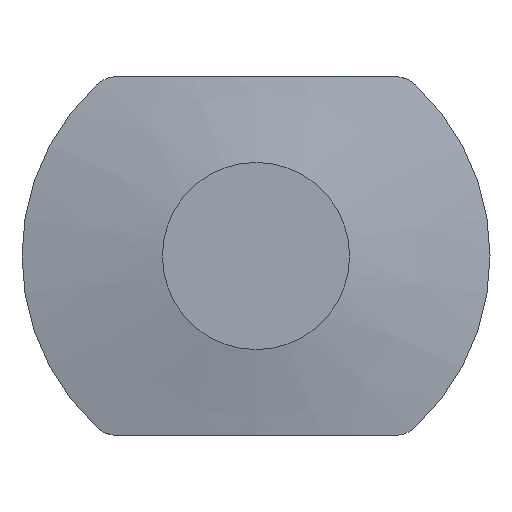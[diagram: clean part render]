
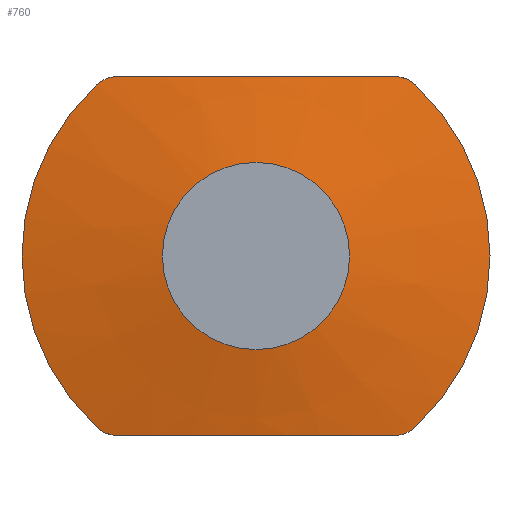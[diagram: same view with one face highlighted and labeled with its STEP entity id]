
A CAD part, left-side view. The second image highlights one B-rep face of the part: STEP entity #760.
In plain terms, the highlighted conical face has half-angle 78.891 degrees and reference radius 19.25 mm.
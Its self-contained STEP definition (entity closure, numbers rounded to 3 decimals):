
#38=CONICAL_SURFACE('',#851,19.25,1.377);
#62=B_SPLINE_CURVE_WITH_KNOTS('',3,(#1359,#1360,#1361,#1362,#1363),
 .UNSPECIFIED.,.F.,.F.,(4,1,4),(0.018,0.027,0.036),
 .UNSPECIFIED.);
#63=B_SPLINE_CURVE_WITH_KNOTS('',3,(#1367,#1368,#1369,#1370),
 .UNSPECIFIED.,.F.,.F.,(4,4),(0.,0.001),
 .UNSPECIFIED.);
#64=B_SPLINE_CURVE_WITH_KNOTS('',3,(#1378,#1379,#1380,#1381),
 .UNSPECIFIED.,.F.,.F.,(4,4),(0.,0.001),
 .UNSPECIFIED.);
#65=B_SPLINE_CURVE_WITH_KNOTS('',3,(#1385,#1386,#1387,#1388,#1389),
 .UNSPECIFIED.,.F.,.F.,(4,1,4),(0.018,0.027,0.036),
 .UNSPECIFIED.);
#66=B_SPLINE_CURVE_WITH_KNOTS('',3,(#1393,#1394,#1395,#1396),
 .UNSPECIFIED.,.F.,.F.,(4,4),(0.,0.001),
 .UNSPECIFIED.);
#67=B_SPLINE_CURVE_WITH_KNOTS('',3,(#1404,#1405,#1406,#1407),
 .UNSPECIFIED.,.F.,.F.,(4,4),(0.,0.001),
 .UNSPECIFIED.);
#227=ORIENTED_EDGE('',*,*,#400,.T.);
#228=ORIENTED_EDGE('',*,*,#385,.T.);
#229=ORIENTED_EDGE('',*,*,#399,.T.);
#230=ORIENTED_EDGE('',*,*,#398,.T.);
#231=ORIENTED_EDGE('',*,*,#395,.T.);
#232=ORIENTED_EDGE('',*,*,#393,.T.);
#233=ORIENTED_EDGE('',*,*,#391,.T.);
#234=ORIENTED_EDGE('',*,*,#389,.T.);
#235=ORIENTED_EDGE('',*,*,#387,.T.);
#385=EDGE_CURVE('',#473,#472,#62,.T.);
#387=EDGE_CURVE('',#474,#473,#63,.T.);
#389=EDGE_CURVE('',#475,#474,#527,.F.);
#391=EDGE_CURVE('',#476,#475,#64,.T.);
#393=EDGE_CURVE('',#477,#476,#65,.T.);
#395=EDGE_CURVE('',#478,#477,#66,.T.);
#398=EDGE_CURVE('',#479,#478,#528,.F.);
#399=EDGE_CURVE('',#472,#479,#67,.T.);
#400=EDGE_CURVE('',#480,#480,#529,.T.);
#472=VERTEX_POINT('',#1358);
#473=VERTEX_POINT('',#1364);
#474=VERTEX_POINT('',#1371);
#475=VERTEX_POINT('',#1375);
#476=VERTEX_POINT('',#1382);
#477=VERTEX_POINT('',#1390);
#478=VERTEX_POINT('',#1397);
#479=VERTEX_POINT('',#1401);
#480=VERTEX_POINT('',#1410);
#527=CIRCLE('',#844,15.);
#528=CIRCLE('',#849,15.);
#529=CIRCLE('',#852,6.);
#576=EDGE_LOOP('',(#227));
#577=EDGE_LOOP('',(#228,#229,#230,#231,#232,#233,#234,#235));
#659=FACE_BOUND('',#576,.T.);
#660=FACE_BOUND('',#577,.T.);
#760=ADVANCED_FACE('',(#659,#660),#38,.T.);
#844=AXIS2_PLACEMENT_3D('',#1374,#1000,#1001);
#849=AXIS2_PLACEMENT_3D('',#1402,#1015,#1016);
#851=AXIS2_PLACEMENT_3D('',#1408,#1019,#1020);
#852=AXIS2_PLACEMENT_3D('',#1409,#1021,#1022);
#1000=DIRECTION('',(1.,0.,0.));
#1001=DIRECTION('',(0.,0.,-1.));
#1015=DIRECTION('',(1.,0.,0.));
#1016=DIRECTION('',(0.,0.,-1.));
#1019=DIRECTION('',(1.,0.,0.));
#1020=DIRECTION('',(0.,0.,-1.));
#1021=DIRECTION('',(1.,0.,0.));
#1022=DIRECTION('',(0.,0.,-1.));
#1358=CARTESIAN_POINT('',(1.674,8.874,11.5));
#1359=CARTESIAN_POINT('',(1.674,-8.874,11.5));
#1360=CARTESIAN_POINT('',(1.322,-5.938,11.5));
#1361=CARTESIAN_POINT('',(0.838,-0.011,11.5));
#1362=CARTESIAN_POINT('',(1.321,5.934,11.5));
#1363=CARTESIAN_POINT('',(1.674,8.874,11.5));
#1364=CARTESIAN_POINT('',(1.674,-8.874,11.5));
#1367=CARTESIAN_POINT('',(1.767,-10.239,10.962));
#1368=CARTESIAN_POINT('',(1.767,-9.869,11.307));
#1369=CARTESIAN_POINT('',(1.734,-9.377,11.5));
#1370=CARTESIAN_POINT('',(1.674,-8.874,11.5));
#1371=CARTESIAN_POINT('',(1.767,-10.239,10.962));
#1374=CARTESIAN_POINT('',(1.767,0.,0.));
#1375=CARTESIAN_POINT('',(1.767,-10.239,-10.962));
#1378=CARTESIAN_POINT('',(1.674,-8.874,-11.5));
#1379=CARTESIAN_POINT('',(1.734,-9.377,-11.5));
#1380=CARTESIAN_POINT('',(1.767,-9.869,-11.307));
#1381=CARTESIAN_POINT('',(1.767,-10.239,-10.962));
#1382=CARTESIAN_POINT('',(1.674,-8.874,-11.5));
#1385=CARTESIAN_POINT('',(1.674,8.874,-11.5));
#1386=CARTESIAN_POINT('',(1.322,5.938,-11.5));
#1387=CARTESIAN_POINT('',(0.838,0.011,-11.5));
#1388=CARTESIAN_POINT('',(1.321,-5.934,-11.5));
#1389=CARTESIAN_POINT('',(1.674,-8.874,-11.5));
#1390=CARTESIAN_POINT('',(1.674,8.874,-11.5));
#1393=CARTESIAN_POINT('',(1.767,10.239,-10.962));
#1394=CARTESIAN_POINT('',(1.767,9.869,-11.307));
#1395=CARTESIAN_POINT('',(1.734,9.377,-11.5));
#1396=CARTESIAN_POINT('',(1.674,8.874,-11.5));
#1397=CARTESIAN_POINT('',(1.767,10.239,-10.962));
#1401=CARTESIAN_POINT('',(1.767,10.239,10.962));
#1402=CARTESIAN_POINT('',(1.767,0.,0.));
#1404=CARTESIAN_POINT('',(1.674,8.874,11.5));
#1405=CARTESIAN_POINT('',(1.734,9.377,11.5));
#1406=CARTESIAN_POINT('',(1.767,9.869,11.307));
#1407=CARTESIAN_POINT('',(1.767,10.239,10.962));
#1408=CARTESIAN_POINT('',(2.602,0.,0.));
#1409=CARTESIAN_POINT('',(0.,0.,0.));
#1410=CARTESIAN_POINT('',(0.,0.,-6.));
